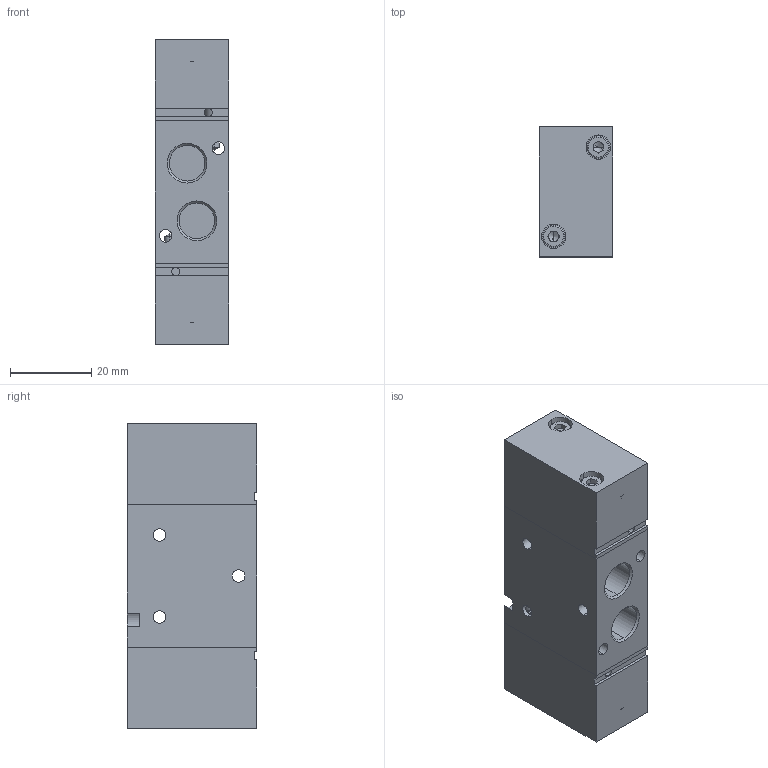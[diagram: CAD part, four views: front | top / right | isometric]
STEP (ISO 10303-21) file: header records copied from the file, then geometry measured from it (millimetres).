
FILE_DESCRIPTION (( 'STEP AP214' ), '1' );
FILE_NAME ('05_004_4.STEP', '2016-02-15T10:53:07', ( '' ), ( '' ), 'SwSTEP 2.0', 'SolidWorks 2016', '' );
FILE_SCHEMA (( 'AUTOMOTIVE_DESIGN' ));
Length unit declared in the file: millimetre
Products named in the file (1): 05_004_4
Bounding box: 18 x 32 x 75.2 mm (x, y, z)
Volume: 40641.6 mm3; surface area: 15034.6 mm2
Topology: 10 solids, 10 shells, 1117 faces, 2909 edges, 1808 vertices
Faces by surface type: cone 622, cylinder 367, plane 106, torus 16, sphere 6
Entity records: 35102 total; most frequent: DIRECTION 6769, CARTESIAN_POINT 6182, ORIENTED_EDGE 5764, EDGE_CURVE 2882, AXIS2_PLACEMENT_3D 2804, VERTEX_POINT 1799, CIRCLE 1686, VECTOR 1161
